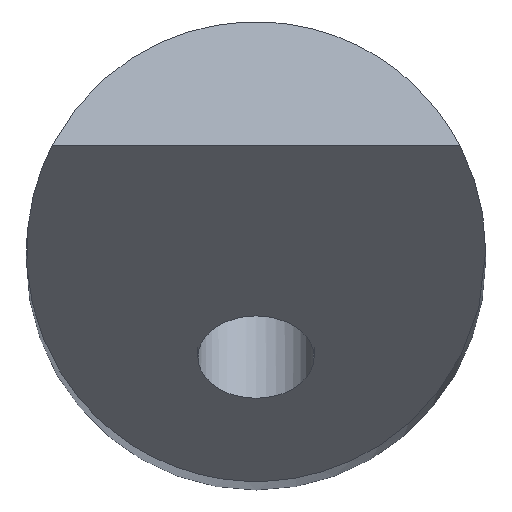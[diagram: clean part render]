
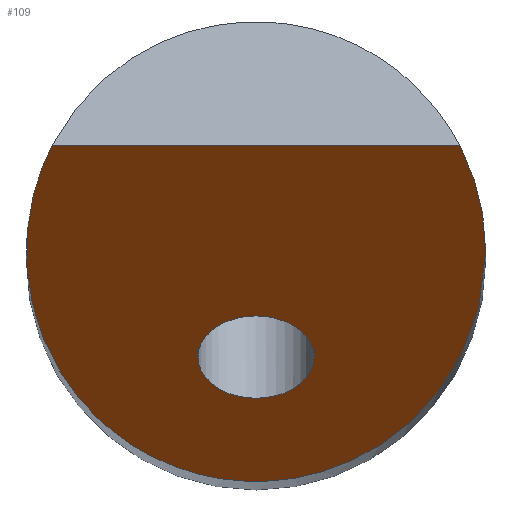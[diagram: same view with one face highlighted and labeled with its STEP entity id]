
A CAD part, top view. The second image highlights one B-rep face of the part: STEP entity #109.
In plain terms, the highlighted planar face has unit normal (0, -0.707, 0.707).
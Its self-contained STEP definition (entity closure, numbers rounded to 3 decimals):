
#20=FACE_BOUND('',#36,.T.);
#23=CIRCLE('',#134,1.265);
#28=FACE_OUTER_BOUND('',#35,.T.);
#35=EDGE_LOOP('',(#81,#82,#83));
#36=EDGE_LOOP('',(#84));
#44=LINE('',#183,#49);
#49=VECTOR('',#149,10.);
#55=ELLIPSE('',#132,7.071,5.);
#56=ELLIPSE('',#133,7.071,5.);
#57=VERTEX_POINT('',#180);
#58=VERTEX_POINT('',#181);
#59=VERTEX_POINT('',#185);
#60=VERTEX_POINT('',#188);
#67=EDGE_CURVE('',#58,#57,#44,.T.);
#68=EDGE_CURVE('',#59,#57,#55,.T.);
#69=EDGE_CURVE('',#58,#59,#56,.T.);
#70=EDGE_CURVE('',#60,#60,#23,.T.);
#81=ORIENTED_EDGE('',*,*,#67,.T.);
#82=ORIENTED_EDGE('',*,*,#68,.F.);
#83=ORIENTED_EDGE('',*,*,#69,.F.);
#84=ORIENTED_EDGE('',*,*,#70,.T.);
#106=PLANE('',#131);
#109=ADVANCED_FACE('',(#28,#20),#106,.F.);
#131=AXIS2_PLACEMENT_3D('',#184,#150,#151);
#132=AXIS2_PLACEMENT_3D('',#186,#152,#153);
#133=AXIS2_PLACEMENT_3D('',#187,#154,#155);
#134=AXIS2_PLACEMENT_3D('',#189,#156,#157);
#149=DIRECTION('',(-1.,0.,0.));
#150=DIRECTION('center_axis',(0.,0.707,-0.707));
#151=DIRECTION('ref_axis',(0.,0.707,0.707));
#152=DIRECTION('center_axis',(0.,0.707,-0.707));
#153=DIRECTION('ref_axis',(0.,-0.707,-0.707));
#154=DIRECTION('center_axis',(0.,0.707,-0.707));
#155=DIRECTION('ref_axis',(0.,-0.707,-0.707));
#156=DIRECTION('center_axis',(0.,0.707,-0.707));
#157=DIRECTION('ref_axis',(1.,0.,0.));
#180=CARTESIAN_POINT('',(340.211,112.235,77.257));
#181=CARTESIAN_POINT('',(349.09,112.235,77.257));
#183=CARTESIAN_POINT('',(123.12,112.235,77.257));
#184=CARTESIAN_POINT('Origin',(-102.85,96.422,61.443));
#185=CARTESIAN_POINT('',(349.65,109.935,74.956));
#186=CARTESIAN_POINT('Origin',(344.65,109.935,74.956));
#187=CARTESIAN_POINT('Origin',(344.65,109.935,74.956));
#188=CARTESIAN_POINT('',(343.386,107.639,72.66));
#189=CARTESIAN_POINT('Origin',(344.65,107.639,72.66));
